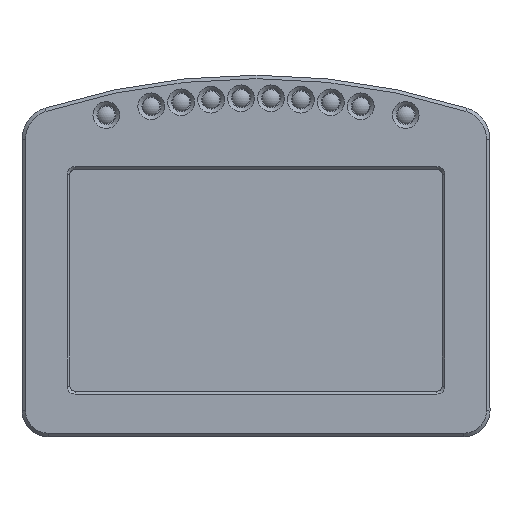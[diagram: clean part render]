
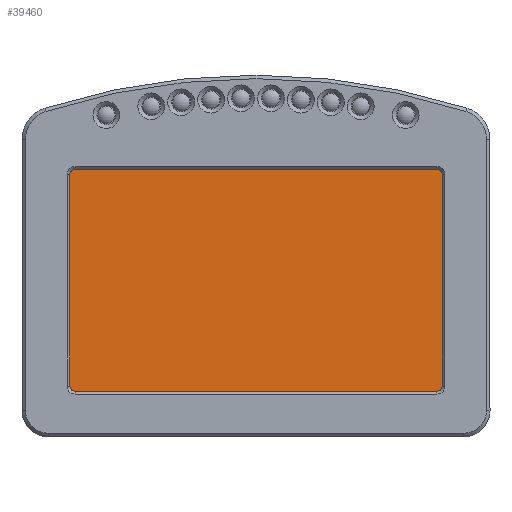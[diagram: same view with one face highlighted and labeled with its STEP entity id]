
A CAD part, top view. The second image highlights one B-rep face of the part: STEP entity #39460.
In plain terms, the highlighted planar face has unit normal (0, 0, 1).
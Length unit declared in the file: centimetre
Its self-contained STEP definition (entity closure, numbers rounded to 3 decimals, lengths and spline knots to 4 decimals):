
#1729=CIRCLE('',#41216,0.15);
#1730=CIRCLE('',#41219,0.15);
#1746=CIRCLE('',#41237,0.15);
#1747=CIRCLE('',#41240,0.15);
#5445=VERTEX_POINT('',#57281);
#5446=VERTEX_POINT('',#57283);
#5447=VERTEX_POINT('',#57287);
#5448=VERTEX_POINT('',#57291);
#5449=VERTEX_POINT('',#57295);
#5468=VERTEX_POINT('',#57336);
#5469=VERTEX_POINT('',#57338);
#5470=VERTEX_POINT('',#57342);
#10594=VECTOR('',#46147,1.);
#10598=VECTOR('',#46156,1.);
#10606=VECTOR('',#46204,1.);
#10607=VECTOR('',#46210,1.);
#13194=LINE('',#57282,#10594);
#13198=LINE('',#57292,#10598);
#13206=LINE('',#57343,#10606);
#13207=LINE('',#57347,#10607);
#15872=EDGE_CURVE('',#5446,#5445,#13194,.T.);
#15875=EDGE_CURVE('',#5445,#5447,#1729,.T.);
#15877=EDGE_CURVE('',#5447,#5448,#13198,.T.);
#15879=EDGE_CURVE('',#5448,#5449,#1730,.T.);
#15899=EDGE_CURVE('',#5469,#5468,#1746,.T.);
#15902=EDGE_CURVE('',#5468,#5470,#13206,.T.);
#15903=EDGE_CURVE('',#5470,#5446,#1747,.T.);
#15904=EDGE_CURVE('',#5449,#5469,#13207,.T.);
#22652=ORIENTED_EDGE('',*,*,#15899,.T.);
#22653=ORIENTED_EDGE('',*,*,#15902,.T.);
#22654=ORIENTED_EDGE('',*,*,#15903,.T.);
#22655=ORIENTED_EDGE('',*,*,#15872,.T.);
#22656=ORIENTED_EDGE('',*,*,#15875,.T.);
#22657=ORIENTED_EDGE('',*,*,#15877,.T.);
#22658=ORIENTED_EDGE('',*,*,#15879,.T.);
#22659=ORIENTED_EDGE('',*,*,#15904,.T.);
#35533=EDGE_LOOP('',(#22652,#22653,#22654,#22655,#22656,#22657,#22658,#22659));
#37508=FACE_BOUND('',#35533,.T.);
#39460=ADVANCED_FACE('',(#37508),#106359,.T.);
#41216=AXIS2_PLACEMENT_3D('',#57288,#46152,#46153);
#41219=AXIS2_PLACEMENT_3D('',#57296,#46160,#46161);
#41237=AXIS2_PLACEMENT_3D('',#57337,#46199,#46200);
#41240=AXIS2_PLACEMENT_3D('',#57345,#46207,#46208);
#41242=AXIS2_PLACEMENT_3D('',#57348,#46211,$);
#46147=DIRECTION('',(0.,1.,0.));
#46152=DIRECTION('',(0.,0.,1.));
#46153=DIRECTION('',(0.15,0.,0.));
#46156=DIRECTION('',(-1.,0.,0.));
#46160=DIRECTION('',(0.,0.,1.));
#46161=DIRECTION('',(0.15,0.,0.));
#46199=DIRECTION('',(0.,0.,1.));
#46200=DIRECTION('',(0.15,0.,0.));
#46204=DIRECTION('',(1.,0.,0.));
#46207=DIRECTION('',(0.,0.,1.));
#46208=DIRECTION('',(0.15,0.,0.));
#46210=DIRECTION('',(0.,-1.,0.));
#46211=DIRECTION('',(0.,0.,1.));
#57281=CARTESIAN_POINT('',(12.075,7.535,1.84));
#57282=CARTESIAN_POINT('',(12.075,7.535,1.84));
#57283=CARTESIAN_POINT('',(12.075,1.455,1.84));
#57287=CARTESIAN_POINT('',(11.925,7.685,1.84));
#57288=CARTESIAN_POINT('',(11.925,7.535,1.84));
#57291=CARTESIAN_POINT('',(1.525,7.685,1.84));
#57292=CARTESIAN_POINT('',(1.525,7.685,1.84));
#57295=CARTESIAN_POINT('',(1.375,7.535,1.84));
#57296=CARTESIAN_POINT('',(1.525,7.535,1.84));
#57336=CARTESIAN_POINT('',(1.525,1.305,1.84));
#57337=CARTESIAN_POINT('',(1.525,1.455,1.84));
#57338=CARTESIAN_POINT('',(1.375,1.455,1.84));
#57342=CARTESIAN_POINT('',(11.925,1.305,1.84));
#57343=CARTESIAN_POINT('',(11.925,1.305,1.84));
#57345=CARTESIAN_POINT('',(11.925,1.455,1.84));
#57347=CARTESIAN_POINT('',(1.375,1.455,1.84));
#57348=CARTESIAN_POINT('',(6.725,4.495,1.84));
#106359=PLANE('',#41242);
